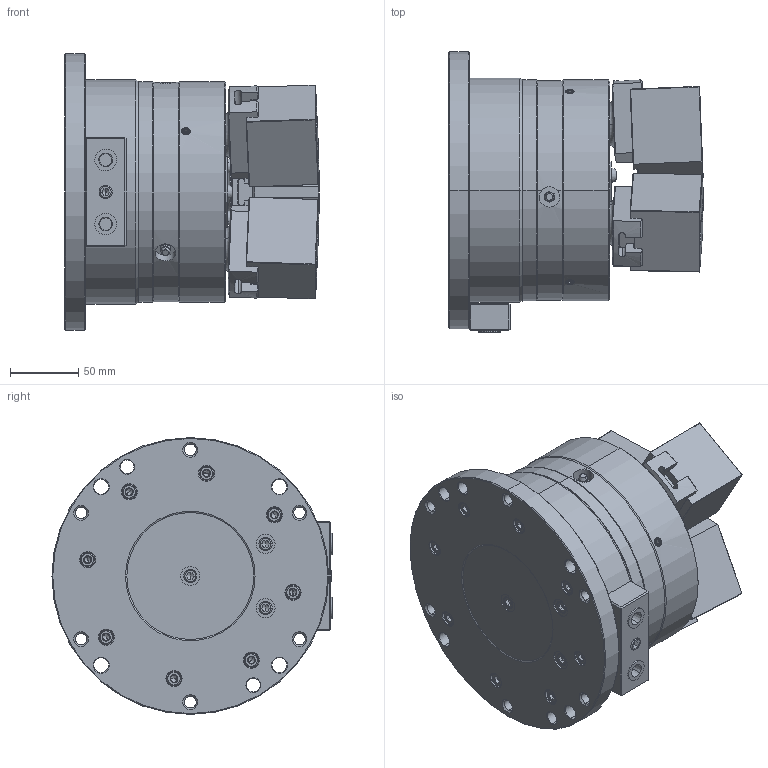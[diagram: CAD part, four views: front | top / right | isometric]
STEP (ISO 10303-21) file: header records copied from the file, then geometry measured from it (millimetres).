
FILE_DESCRIPTION (( 'STEP AP214' ), '1' );
FILE_NAME ('PW06S_UC.STEP', '2020-06-25T05:48:17', ( '' ), ( '' ), 'SwSTEP 2.0', 'SolidWorks 2017', '' );
FILE_SCHEMA (( 'AUTOMOTIVE_DESIGN' ));
Length unit declared in the file: millimetre
Products named in the file (5): PW06S_UC; 結合_OD; 0030110016; 61P422013; 61P324975
Assembly tree (13 placements, depth 2):
  PW06S_UC
    61P324975  x3
    61P422013  x3
    0030110016  x6
    結合_OD
Bounding box: 186.58 x 205.5 x 203 mm (x, y, z)
Volume: 3139908.2 mm3; surface area: 276644.7 mm2
Topology: 15 solids, 28 shells, 2283 faces, 5471 edges, 3373 vertices
Faces by surface type: plane 1083, cone 480, cylinder 371, bspline 263, torus 80, sphere 6
Entity records: 69218 total; most frequent: CARTESIAN_POINT 24440, ORIENTED_EDGE 9500, DIRECTION 8479, EDGE_CURVE 4750, AXIS2_PLACEMENT_3D 2979, VERTEX_POINT 2977, LINE 2521, VECTOR 2521
